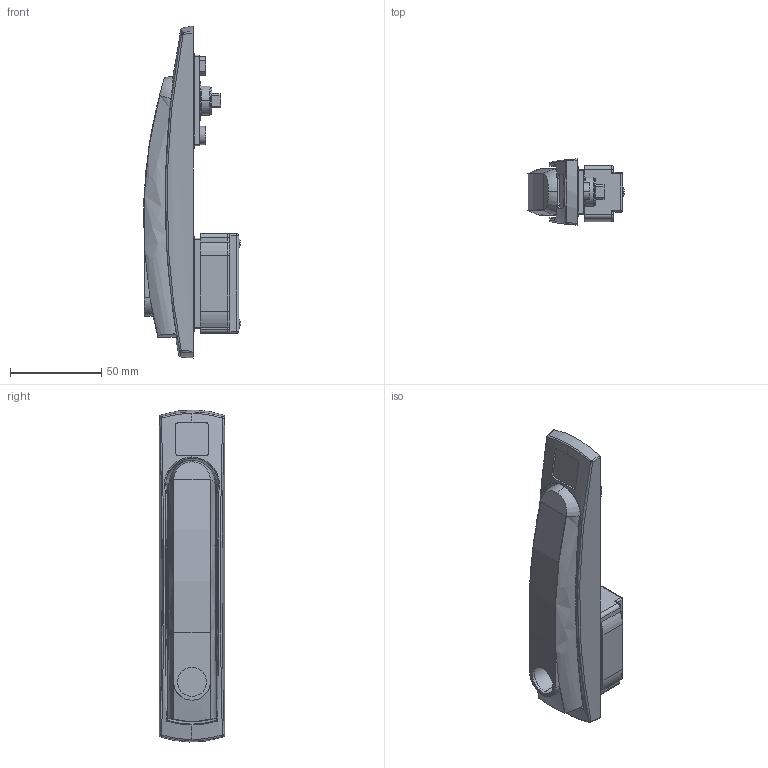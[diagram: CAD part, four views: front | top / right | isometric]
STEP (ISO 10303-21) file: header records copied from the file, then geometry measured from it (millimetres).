
FILE_DESCRIPTION (( 'STEP AP214' ), '1' );
FILE_NAME ('RS600.STEP', '2016-09-07T10:56:56', ( '' ), ( '' ), 'SwSTEP 2.0', 'SolidWorks 2015', '' );
FILE_SCHEMA (( 'AUTOMOTIVE_DESIGN' ));
Length unit declared in the file: millimetre
Products named in the file (12): RS600; 1B.RS600.02.01.00_A; 1B.RS600.01.01.00_A; 1B.RS600.01.02.00; 1B.RS100.001.03_A; 1B.RS100.001.04_A; 1B.RS600.01.07.00_A; 1B.RS300.02.02.00_A; DIN 3771_12x2; DIN 3771_42x1.50; Podk³adka teflonowa_A; Wkrêt 4,1 x 22_K.02
Assembly tree (13 placements, depth 2):
  RS600
    1B.RS600.02.01.00_A
    1B.RS600.01.01.00_A
    1B.RS600.01.02.00
    1B.RS100.001.03_A
    1B.RS100.001.04_A
    1B.RS600.01.07.00_A
    1B.RS300.02.02.00_A
    DIN 3771_12x2
    DIN 3771_42x1.50  x2
    Podk³adka teflonowa_A
    Wkrêt 4,1 x 22_K.02  x2
Bounding box: 53.01 x 36 x 181.97 mm (x, y, z)
Volume: 85720.3 mm3; surface area: 56377.4 mm2
Topology: 15 solids, 15 shells, 647 faces, 1628 edges, 989 vertices
Faces by surface type: plane 221, cylinder 196, bspline 141, torus 55, cone 18, sphere 16
Entity records: 25963 total; most frequent: CARTESIAN_POINT 11895, ORIENTED_EDGE 2962, DIRECTION 2579, EDGE_CURVE 1481, AXIS2_PLACEMENT_3D 1007, VERTEX_POINT 921, EDGE_LOOP 632, ADVANCED_FACE 593
